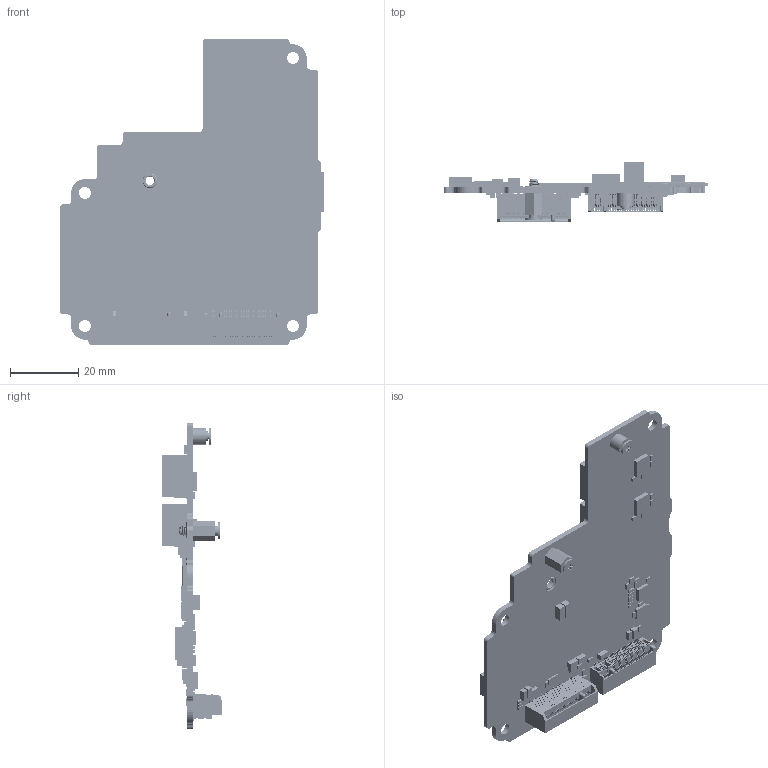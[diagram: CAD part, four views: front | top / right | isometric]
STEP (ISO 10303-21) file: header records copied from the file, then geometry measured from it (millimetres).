
FILE_DESCRIPTION((''),'2;1');
FILE_NAME('D115S_EXB-A_ASM','2026-08-10T14:28:57',('A002430'),(''),'CREO PARAMETRIC BY PTC INC, 2016390','CREO PARAMETRIC BY PTC INC, 2016390','');
FILE_SCHEMA(('AUTOMOTIVE_DESIGN { 1 0 10303 214 1 1 1 1 }'));
Products named in the file (53): D133_5G_PCB; D133_5G_PCB_ASM; 104AAAAAAAC3_SMT_NUT_M3; 062AFG027ANK; D133_5G_BOARD_TOP_ASSY_ASM; 062A51757ANL; 104AAAAAAADF_STANDOFF_M2_H3-9; 062A51757ANL_2280_LIMIT_AREA; 062A51757ANL_2280_ASSY_ASM; 062A2E0BCANF_M-2_KEY-B; 062A2E0BCANF_M-2_KEY-B_ASSY_ASM; D133_5G_BOARD_BTM_ASSY_ASM; D133_5G_BOARD_ASM; STANDOFF_M2_L6-6_104-ADK; QUECTEL_RM520N-GL_3D_DIMENSIONS_ASM; SCREW_2MM_4L_100A_KN; D133_5G_BOARD_SCREW_ASSY_ASM; D133_5G_BOARD_ASSY_ASM; SHORT_PAD_0805; SOT23_0_95X6P_H61_A; BEAD0603_H41_1_2; L0402_H28_A_1_2_3; WAFER_FWFD25R1_2_5X4P_H238; XTAL_3_2X2_5_H36_1_2_3_4_5; PIN2_5X4P_180_H291; DFN0_5X6P_1_6X1_6_H28_1; QFN0_45X12P_3X3_H40_A_1_2_3_4; SOP0_65X16P_6_4_H51_B; QFN0_5X24P_4X4_EP2_7_H43_1_2__5; QFN0_5X24P_4X4_H34; QFN0_5X24P_4X4_EP2_7_H36_1_2__4; WF1_25_1X4P_50271_H148_1_2_3__5; FPC_0_5X40P_6_7X28_2_90_H48_1; TC_1210_1_H91_1_2_3_4_5; TC_0805_2_H61_1_2_3_4_5; CHOKE_BMRA0606_H122_1_2_3; D0603T_H35_1_2_3_4; FID-S_1_2_3_4_5; FID-C_1_2_3_4; TEST_PAD0_5_1_2_3_4_5_6_7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
Assembly tree (220 placements, depth 6):
  D115S_EXB-A_ASM
    D133_5G_BOARD_ASSY_ASM
      D133_5G_BOARD_ASM
        D133_5G_PCB_ASM
          D133_5G_PCB
        D133_5G_BOARD_TOP_ASSY_ASM
          104AAAAAAAC3_SMT_NUT_M3  x2
          062AFG027ANK
        D133_5G_BOARD_BTM_ASSY_ASM
          062A51757ANL_2280_ASSY_ASM
            062A51757ANL
            104AAAAAAADF_STANDOFF_M2_H3-9
            062A51757ANL_2280_LIMIT_AREA
          062A2E0BCANF_M-2_KEY-B_ASSY_ASM
            062A2E0BCANF_M-2_KEY-B
      STANDOFF_M2_L6-6_104-ADK
      QUECTEL_RM520N-GL_3D_DIMENSIONS_ASM
      D133_5G_BOARD_SCREW_ASSY_ASM
        SCREW_2MM_4L_100A_KN  x2
    D115S-EXPB-A-PCB-20250828_ASM
      COMPONENTS_1_2_3_4_5_6_ASM
        SHORT_PAD_0805  x3
        SOT23_0_95X6P_H61_A
        BEAD0603_H41_1_2  x2
        L0402_H28_A_1_2_3
        WAFER_FWFD25R1_2_5X4P_H238  x2
        XTAL_3_2X2_5_H36_1_2_3_4_5
        PIN2_5X4P_180_H291  x2
        DFN0_5X6P_1_6X1_6_H28_1  x2
        QFN0_45X12P_3X3_H40_A_1_2_3_4
        SOP0_65X16P_6_4_H51_B  x2
        QFN0_5X24P_4X4_EP2_7_H43_1_2__5
        QFN0_5X24P_4X4_H34  x2
        QFN0_5X24P_4X4_EP2_7_H36_1_2__4
        WF1_25_1X4P_50271_H148_1_2_3__5
        FPC_0_5X40P_6_7X28_2_90_H48_1
        TC_1210_1_H91_1_2_3_4_5  x2
        TC_0805_2_H61_1_2_3_4_5  x15
        CHOKE_BMRA0606_H122_1_2_3
        D0603T_H35_1_2_3_4
        FID-S_1_2_3_4_5
        FID-C_1_2_3_4
        TEST_PAD0_5_1_2_3_4_5_6_7  x13
        TC_1206_2_H79_1_2_3_4_5_6  x9
        TC_0402_H20_A_1_2_3_4_5  x7
        TC_0402_H20_1_2_3_4_5_6_7  x56
        CHOKE_CSM0315D_H63_1_2_3_4_5  x2
        TC_0603_4_H44_1_2_3_4_5_6  x7
        ESD_SOD323_H44_A_1_2_3_4_5  x6
        DIODEBI_SMB_H103_1_2_3
        TR_0402_H20_1_2_3_4_5_6_7  x46
        DFN0_65X8P_3X3_H40_A_1_2
        ESD0_5X10P_2510P8_H26_A_1_2_3_4  x6
Bounding box: 77.8 x 17.49 x 90 mm (x, y, z)
Volume: 13614.5 mm3; surface area: 21622.4 mm2
Topology: 210 solids, 215 shells, 13278 faces, 40436 edges, 26919 vertices
Faces by surface type: plane 11170, cylinder 2033, bspline 42, cone 24, torus 5, sphere 4
Entity records: 459693 total; most frequent: CARTESIAN_POINT 85338, ORIENTED_EDGE 76780, DIRECTION 68524, EDGE_CURVE 38394, VECTOR 33130, LINE 33130, VERTEX_POINT 25565, AXIS2_PLACEMENT_3D 17697
